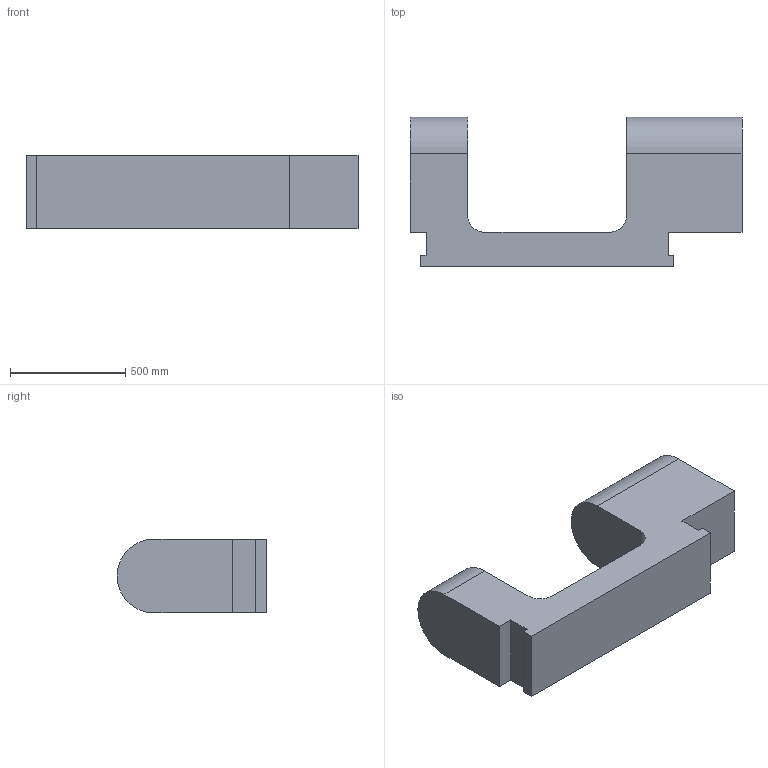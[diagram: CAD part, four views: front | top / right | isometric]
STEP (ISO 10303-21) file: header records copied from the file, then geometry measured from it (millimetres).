
FILE_DESCRIPTION (( 'STEP AP203' ), '1' );
FILE_NAME ('Support berceau.STEP', '2009-12-04T12:11:43', ( 'Famille Couzi' ), ( '' ), 'SwSTEP 2.0', 'SolidWorks 2005143', '' );
FILE_SCHEMA (( 'CONFIG_CONTROL_DESIGN' ));
Length unit declared in the file: millimetre
Products named in the file (1): Support berceau
Bounding box: 1440 x 650 x 320 mm (x, y, z)
Volume: 163731856.1 mm3; surface area: 2596867.4 mm2
Topology: 1 solids, 1 shells, 22 faces, 60 edges, 40 vertices
Faces by surface type: plane 16, cylinder 6
Entity records: 773 total; most frequent: CARTESIAN_POINT 123, ORIENTED_EDGE 120, DIRECTION 118, EDGE_CURVE 60, VECTOR 48, LINE 48, VERTEX_POINT 40, AXIS2_PLACEMENT_3D 35
